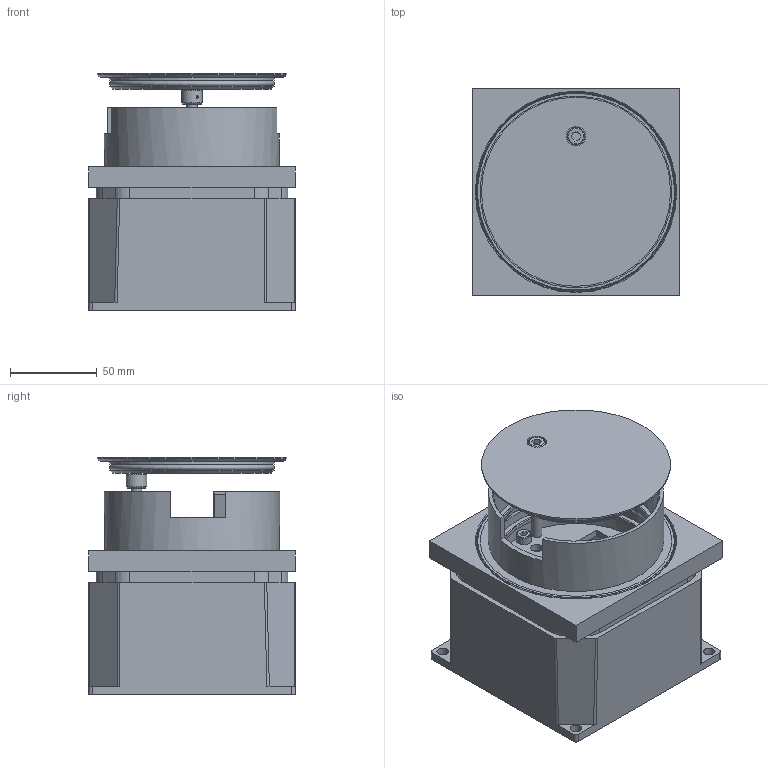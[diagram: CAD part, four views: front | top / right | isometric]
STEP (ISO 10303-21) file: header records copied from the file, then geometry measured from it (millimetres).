
FILE_DESCRIPTION(/* description */ (''),/* implementation_level */ '2;1');
FILE_NAME(/* name */ 'Font 4970W_Wasserschutzrohr.stp',/* time_stamp */ '2023-11-07T08:56:48+01:00',/* author */ ('stangass'),/* organization */ (''),/* preprocessor_version */ 'ST-DEVELOPER v19.2',/* originating_system */ 'Autodesk Inventor 2023',/* authorisation */ '');
FILE_SCHEMA (('AUTOMOTIVE_DESIGN { 1 0 10303 214 3 1 1 }'));
Products named in the file (23): 1938993_3DINV; 1837450_3DINV; 2241439_3DINV; 2040270_3DINV; DIN 126 - 5,5; DIN 705 - B6; DIN 912 - M6 x 60; 204009_3DINV; DIN 6799 - 8; 2241441_3DINV; DIN 7984 - M8 x 50; O_RING.118X2,5MM; 1938992_3DINV; DIN 562 - M6; 2040010_3DINV; DIN 125-1 - B 5,3; DIN 127 - A 5; DIN 912 - M5 x 8; #27987; DIN 912 - M3 x 6; 1939004_3DINV; 2241440_3DINV; 1939019_3DINV
Assembly tree (37 placements, depth 2):
  1938993_3DINV
    1837450_3DINV
    2241439_3DINV
    2040270_3DINV
    DIN 126 - 5,5
    DIN 705 - B6
    DIN 912 - M6 x 60
    204009_3DINV
    DIN 6799 - 8  x4
    2241441_3DINV
    DIN 7984 - M8 x 50  x4
    O_RING.118X2,5MM
    1938992_3DINV
    DIN 562 - M6
    2040010_3DINV
    DIN 912 - M5 x 8  x3
    DIN 912 - M3 x 6  x5
    #27987  x3
    DIN 125-1 - B 5,3
    DIN 127 - A 5
    1939004_3DINV
    2241440_3DINV
    1939019_3DINV  x2
Bounding box: 119 x 119 x 137 mm (x, y, z)
Volume: 516190.9 mm3; surface area: 253545.4 mm2
Topology: 37 solids, 37 shells, 1048 faces, 2610 edges, 1663 vertices
Faces by surface type: plane 434, cylinder 390, bspline 82, cone 74, torus 54, sphere 14
Full cylindrical faces by diameter (mm): 1.25 x8, 1.5 x1, 2.459 x4, 2.8 x8, 3 x5, 3.1 x4, 3.683 x3, 4.134 x3, 4.394 x3, 4.521 x3, 4.917 x1, 5 x5, 5.2 x2, 5.207 x3, 5.3 x1, 5.5 x6, 6 x11, 6.647 x8, 7 x2, 8 x4, 8.5 x3, 10 x3, 11.2 x1, 12 x1, 13 x4, 13.1 x4, 22.835 x2, 49 x1, 89 x2, 89.5 x1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
Entity records: 27900 total; most frequent: CARTESIAN_POINT 8604, DIRECTION 4069, ORIENTED_EDGE 3730, EDGE_CURVE 1865, AXIS2_PLACEMENT_3D 1576, VERTEX_POINT 1190, LINE 917, VECTOR 917
